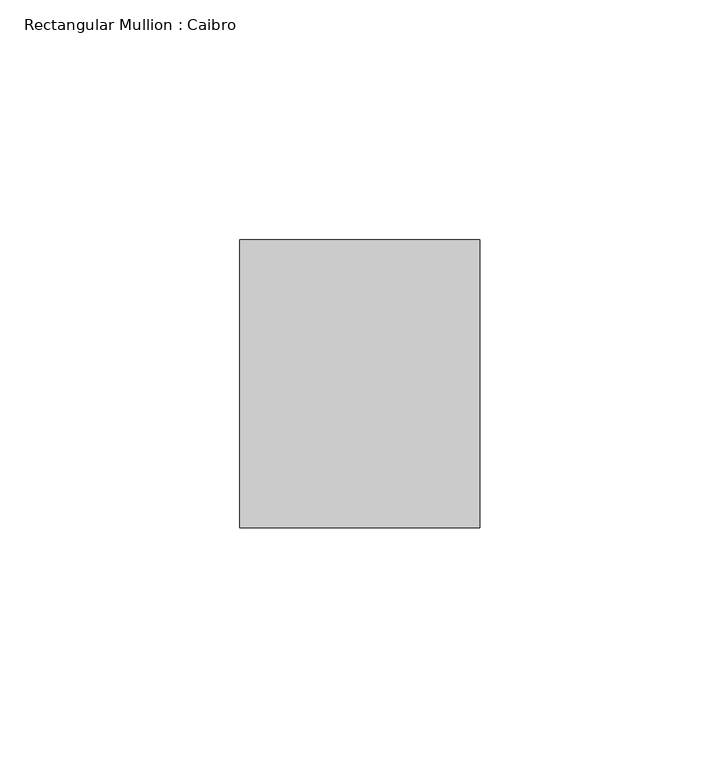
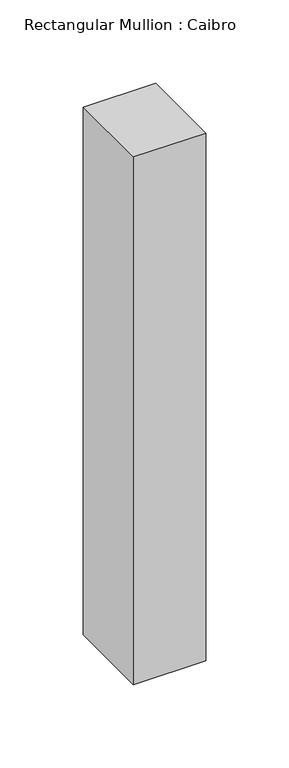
"""IFC4 building model written with IfcOpenShell, lengths in millimetres: member geometry, Rectangular Mullion : Caibro."""

from ifc_helpers import new_model, si_unit, frame, origin, place, context, project, spatial, polyline, outline, extrude, source, transform, mapped, element, save


def rectangular_mullion_caibro_22b168a6(model_context):
    return source(origin(), model_context, "Body", "SweptSolid", [
        extrude(outline(polyline([(0.0, -60.0), (-50.0, -60.0), (-50.0, 0.0), (0.0, 0.0), (0.0, -60.0)])), frame((0.0, 0.0, -386.4764043), z_axis=(0.0, 0.0, 1.0), x_axis=(1.0, 0.0, 0.0)), (0.0, 0.0, 1.0), 386.4764043),
    ])


if __name__ == "__main__":
    model = new_model("IFC4")
    model_context = context("Model", 3, world=origin())
    ifc_project = project(units=[si_unit("LENGTHUNIT", "METRE", prefix="MILLI")], contexts=[model_context])
    site = spatial("IfcSite", under=ifc_project)
    building = spatial("IfcBuilding", under=site)
    placement = place(None, origin())
    rectangular_mullion_caibro_shape = rectangular_mullion_caibro_22b168a6(model_context)
    element("IfcMember", 1, ObjectType="Rectangular Mullion : Caibro", at=placement, inside=building, context=model_context, shape_type="MappedRepresentation", body=[
        mapped(rectangular_mullion_caibro_shape, transform((0.0, 0.0, 0.0), x_axis=(1.0, 0.0, 0.0), y_axis=(0.0, 1.0, 0.0), z_axis=(0.0, 0.0, 1.0))),
    ])
    save(model, "model.ifc")
